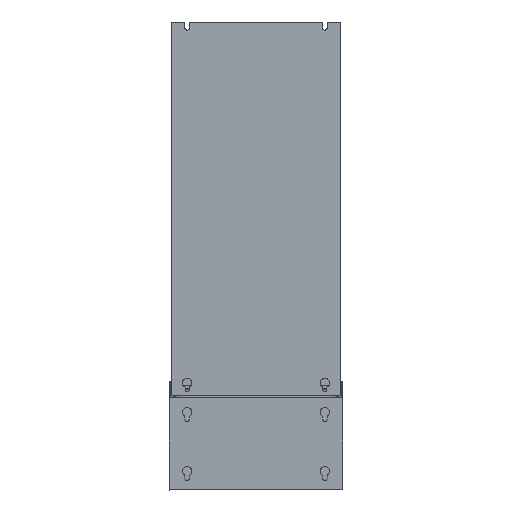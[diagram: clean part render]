
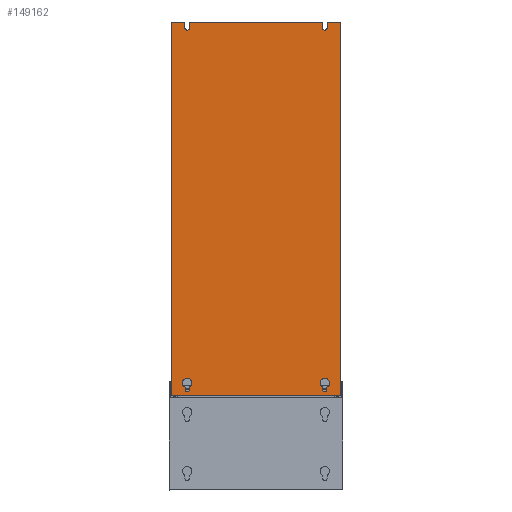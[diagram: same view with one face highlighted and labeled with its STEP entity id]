
A CAD part, front view. The second image highlights one B-rep face of the part: STEP entity #149162.
In plain terms, the highlighted planar face has unit normal (0, -1, 0).
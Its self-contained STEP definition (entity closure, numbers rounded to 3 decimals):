
#136124=CARTESIAN_POINT('',(40.,0.,935.));
#136125=DIRECTION('',(0.,-1.,0.));
#136126=DIRECTION('',(-1.,0.,0.));
#136127=AXIS2_PLACEMENT_3D('',#136124,#136125,#136126);
#136129=CARTESIAN_POINT('',(390.,0.,935.));
#136130=DIRECTION('',(0.,-1.,0.));
#136131=DIRECTION('',(-1.,0.,0.));
#136132=AXIS2_PLACEMENT_3D('',#136129,#136130,#136131);
#136134=CARTESIAN_POINT('',(390.,0.,15.));
#136135=DIRECTION('',(0.,-1.,0.));
#136136=DIRECTION('',(-1.,0.,0.));
#136137=AXIS2_PLACEMENT_3D('',#136134,#136135,#136136);
#136139=CARTESIAN_POINT('',(390.,0.,32.));
#136140=DIRECTION('',(0.,-1.,0.));
#136141=DIRECTION('',(0.458,0.,-0.889));
#136142=AXIS2_PLACEMENT_3D('',#136139,#136140,#136141);
#136144=CARTESIAN_POINT('',(390.,0.,32.));
#136145=DIRECTION('',(0.,-1.,0.));
#136146=DIRECTION('',(1.,0.,0.));
#136147=AXIS2_PLACEMENT_3D('',#136144,#136145,#136146);
#136149=CARTESIAN_POINT('',(390.,0.,32.));
#136150=DIRECTION('',(0.,-1.,0.));
#136151=DIRECTION('',(-0.458,0.,0.889));
#136152=AXIS2_PLACEMENT_3D('',#136149,#136150,#136151);
#136154=CARTESIAN_POINT('',(390.,0.,32.));
#136155=DIRECTION('',(0.,-1.,0.));
#136156=DIRECTION('',(-1.,0.,0.));
#136157=AXIS2_PLACEMENT_3D('',#136154,#136155,#136156);
#136159=CARTESIAN_POINT('',(40.,0.,32.));
#136160=DIRECTION('',(0.,-1.,0.));
#136161=DIRECTION('',(0.458,0.,-0.889));
#136162=AXIS2_PLACEMENT_3D('',#136159,#136160,#136161);
#136164=CARTESIAN_POINT('',(40.,0.,32.));
#136165=DIRECTION('',(0.,-1.,0.));
#136166=DIRECTION('',(1.,0.,0.));
#136167=AXIS2_PLACEMENT_3D('',#136164,#136165,#136166);
#136169=CARTESIAN_POINT('',(40.,0.,32.));
#136170=DIRECTION('',(0.,-1.,0.));
#136171=DIRECTION('',(-0.458,0.,0.889));
#136172=AXIS2_PLACEMENT_3D('',#136169,#136170,#136171);
#136174=CARTESIAN_POINT('',(40.,0.,32.));
#136175=DIRECTION('',(0.,-1.,0.));
#136176=DIRECTION('',(-1.,0.,0.));
#136177=AXIS2_PLACEMENT_3D('',#136174,#136175,#136176);
#136179=CARTESIAN_POINT('',(40.,0.,15.));
#136180=DIRECTION('',(0.,-1.,0.));
#136181=DIRECTION('',(-1.,0.,0.));
#136182=AXIS2_PLACEMENT_3D('',#136179,#136180,#136181);
#136184=DIRECTION('',(0.,0.,1.));
#136185=VECTOR('',#136184,950.);
#136186=CARTESIAN_POINT('',(430.,0.,0.));
#136187=LINE('',#136186,#136185);
#136220=DIRECTION('',(1.,0.,0.));
#136221=VECTOR('',#136220,430.);
#136222=CARTESIAN_POINT('',(0.,0.,0.));
#136223=LINE('',#136222,#136221);
#142311=DIRECTION('',(0.,0.,-1.));
#142312=VECTOR('',#142311,950.);
#142313=CARTESIAN_POINT('',(0.,0.,950.));
#142314=LINE('',#142313,#142312);
#142483=DIRECTION('',(0.,0.,1.));
#142484=VECTOR('',#142483,6.335);
#142485=CARTESIAN_POINT('',(384.5,0.,15.));
#142486=LINE('',#142485,#142484);
#142499=DIRECTION('',(0.,0.,-1.));
#142500=VECTOR('',#142499,6.335);
#142501=CARTESIAN_POINT('',(395.5,0.,21.335));
#142502=LINE('',#142501,#142500);
#142507=DIRECTION('',(0.,0.,-1.));
#142508=VECTOR('',#142507,6.335);
#142509=CARTESIAN_POINT('',(45.5,0.,21.335));
#142510=LINE('',#142509,#142508);
#142523=DIRECTION('',(0.,0.,1.));
#142524=VECTOR('',#142523,6.335);
#142525=CARTESIAN_POINT('',(34.5,0.,15.));
#142526=LINE('',#142525,#142524);
#142581=DIRECTION('',(-1.,0.,0.));
#142582=VECTOR('',#142581,34.25);
#142583=CARTESIAN_POINT('',(34.25,0.,950.));
#142584=LINE('',#142583,#142582);
#142601=DIRECTION('',(0.,0.,1.));
#142602=VECTOR('',#142601,15.);
#142603=CARTESIAN_POINT('',(34.25,0.,935.));
#142604=LINE('',#142603,#142602);
#142621=DIRECTION('',(0.,0.,-1.));
#142622=VECTOR('',#142621,15.);
#142623=CARTESIAN_POINT('',(45.75,0.,950.));
#142624=LINE('',#142623,#142622);
#142629=DIRECTION('',(-1.,0.,0.));
#142630=VECTOR('',#142629,338.5);
#142631=CARTESIAN_POINT('',(384.25,0.,950.));
#142632=LINE('',#142631,#142630);
#142641=DIRECTION('',(0.,0.,1.));
#142642=VECTOR('',#142641,15.);
#142643=CARTESIAN_POINT('',(384.25,0.,935.));
#142644=LINE('',#142643,#142642);
#142673=DIRECTION('',(-1.,0.,0.));
#142674=VECTOR('',#142673,34.25);
#142675=CARTESIAN_POINT('',(430.,0.,950.));
#142676=LINE('',#142675,#142674);
#142677=DIRECTION('',(0.,0.,-1.));
#142678=VECTOR('',#142677,15.);
#142679=CARTESIAN_POINT('',(395.75,0.,950.));
#142680=LINE('',#142679,#142678);
#145417=CARTESIAN_POINT('',(384.25,0.,935.));
#145418=CARTESIAN_POINT('',(395.75,0.,935.));
#145419=VERTEX_POINT('',#145417);
#145420=VERTEX_POINT('',#145418);
#145421=CARTESIAN_POINT('',(430.,0.,0.));
#145422=CARTESIAN_POINT('',(430.,0.,950.));
#145423=VERTEX_POINT('',#145421);
#145424=VERTEX_POINT('',#145422);
#145425=CARTESIAN_POINT('',(0.,0.,0.));
#145426=VERTEX_POINT('',#145425);
#145427=CARTESIAN_POINT('',(0.,0.,950.));
#145428=VERTEX_POINT('',#145427);
#145429=CARTESIAN_POINT('',(34.25,0.,950.));
#145430=VERTEX_POINT('',#145429);
#145431=CARTESIAN_POINT('',(34.25,0.,935.));
#145432=VERTEX_POINT('',#145431);
#145433=CARTESIAN_POINT('',(45.75,0.,935.));
#145434=VERTEX_POINT('',#145433);
#145435=CARTESIAN_POINT('',(45.75,0.,950.));
#145436=VERTEX_POINT('',#145435);
#145437=CARTESIAN_POINT('',(384.25,0.,950.));
#145438=VERTEX_POINT('',#145437);
#145439=CARTESIAN_POINT('',(395.75,0.,950.));
#145440=VERTEX_POINT('',#145439);
#145441=CARTESIAN_POINT('',(384.5,0.,15.));
#145442=CARTESIAN_POINT('',(395.5,0.,15.));
#145443=VERTEX_POINT('',#145441);
#145444=VERTEX_POINT('',#145442);
#145445=CARTESIAN_POINT('',(395.5,0.,21.335));
#145446=VERTEX_POINT('',#145445);
#145447=CARTESIAN_POINT('',(402.,0.,32.));
#145448=VERTEX_POINT('',#145447);
#145449=CARTESIAN_POINT('',(384.5,0.,42.665));
#145450=VERTEX_POINT('',#145449);
#145451=CARTESIAN_POINT('',(378.,0.,32.));
#145452=VERTEX_POINT('',#145451);
#145453=CARTESIAN_POINT('',(384.5,0.,21.335));
#145454=VERTEX_POINT('',#145453);
#145455=CARTESIAN_POINT('',(45.5,0.,21.335));
#145456=CARTESIAN_POINT('',(45.5,0.,15.));
#145457=VERTEX_POINT('',#145455);
#145458=VERTEX_POINT('',#145456);
#145459=CARTESIAN_POINT('',(52.,0.,32.));
#145460=VERTEX_POINT('',#145459);
#145461=CARTESIAN_POINT('',(34.5,0.,42.665));
#145462=VERTEX_POINT('',#145461);
#145463=CARTESIAN_POINT('',(28.,0.,32.));
#145464=VERTEX_POINT('',#145463);
#145465=CARTESIAN_POINT('',(34.5,0.,21.335));
#145466=VERTEX_POINT('',#145465);
#145467=CARTESIAN_POINT('',(34.5,0.,15.));
#145468=VERTEX_POINT('',#145467);
#149100=CARTESIAN_POINT('',(215.,0.,475.));
#149101=DIRECTION('',(0.,1.,0.));
#149102=DIRECTION('',(-1.,0.,0.));
#149103=AXIS2_PLACEMENT_3D('',#149100,#149101,#149102);
#149104=PLANE('',#149103);
#149106=ORIENTED_EDGE('',*,*,#149105,.F.);
#149108=ORIENTED_EDGE('',*,*,#149107,.F.);
#149110=ORIENTED_EDGE('',*,*,#149109,.F.);
#149112=ORIENTED_EDGE('',*,*,#149111,.F.);
#149114=ORIENTED_EDGE('',*,*,#149113,.F.);
#149116=ORIENTED_EDGE('',*,*,#149115,.T.);
#149118=ORIENTED_EDGE('',*,*,#149117,.F.);
#149120=ORIENTED_EDGE('',*,*,#149119,.F.);
#149122=ORIENTED_EDGE('',*,*,#149121,.F.);
#149123=ORIENTED_EDGE('',*,*,#149090,.T.);
#149125=ORIENTED_EDGE('',*,*,#149124,.F.);
#149127=ORIENTED_EDGE('',*,*,#149126,.F.);
#149128=EDGE_LOOP('',(#149106,#149108,#149110,#149112,#149114,#149116,#149118,
#149120,#149122,#149123,#149125,#149127));
#149129=FACE_OUTER_BOUND('',#149128,.F.);
#149131=ORIENTED_EDGE('',*,*,#149130,.T.);
#149133=ORIENTED_EDGE('',*,*,#149132,.F.);
#149135=ORIENTED_EDGE('',*,*,#149134,.T.);
#149137=ORIENTED_EDGE('',*,*,#149136,.T.);
#149139=ORIENTED_EDGE('',*,*,#149138,.T.);
#149141=ORIENTED_EDGE('',*,*,#149140,.T.);
#149143=ORIENTED_EDGE('',*,*,#149142,.F.);
#149144=EDGE_LOOP('',(#149131,#149133,#149135,#149137,#149139,#149141,#149143));
#149145=FACE_BOUND('',#149144,.F.);
#149147=ORIENTED_EDGE('',*,*,#149146,.F.);
#149149=ORIENTED_EDGE('',*,*,#149148,.T.);
#149151=ORIENTED_EDGE('',*,*,#149150,.T.);
#149153=ORIENTED_EDGE('',*,*,#149152,.T.);
#149155=ORIENTED_EDGE('',*,*,#149154,.T.);
#149157=ORIENTED_EDGE('',*,*,#149156,.F.);
#149159=ORIENTED_EDGE('',*,*,#149158,.T.);
#149160=EDGE_LOOP('',(#149147,#149149,#149151,#149153,#149155,#149157,#149159));
#149161=FACE_BOUND('',#149160,.F.);
#136128=CIRCLE('',#136127,5.75);
#136133=CIRCLE('',#136132,5.75);
#136138=CIRCLE('',#136137,5.5);
#136143=CIRCLE('',#136142,12.);
#136148=CIRCLE('',#136147,12.);
#136153=CIRCLE('',#136152,12.);
#136158=CIRCLE('',#136157,12.);
#136163=CIRCLE('',#136162,12.);
#136168=CIRCLE('',#136167,12.);
#136173=CIRCLE('',#136172,12.);
#136178=CIRCLE('',#136177,12.);
#136183=CIRCLE('',#136182,5.5);
#149090=EDGE_CURVE('',#145419,#145420,#136133,.T.);
#149105=EDGE_CURVE('',#145423,#145424,#136187,.T.);
#149107=EDGE_CURVE('',#145426,#145423,#136223,.T.);
#149109=EDGE_CURVE('',#145428,#145426,#142314,.T.);
#149111=EDGE_CURVE('',#145430,#145428,#142584,.T.);
#149113=EDGE_CURVE('',#145432,#145430,#142604,.T.);
#149115=EDGE_CURVE('',#145432,#145434,#136128,.T.);
#149117=EDGE_CURVE('',#145436,#145434,#142624,.T.);
#149119=EDGE_CURVE('',#145438,#145436,#142632,.T.);
#149121=EDGE_CURVE('',#145419,#145438,#142644,.T.);
#149124=EDGE_CURVE('',#145440,#145420,#142680,.T.);
#149126=EDGE_CURVE('',#145424,#145440,#142676,.T.);
#149130=EDGE_CURVE('',#145443,#145444,#136138,.T.);
#149132=EDGE_CURVE('',#145446,#145444,#142502,.T.);
#149134=EDGE_CURVE('',#145446,#145448,#136143,.T.);
#149136=EDGE_CURVE('',#145448,#145450,#136148,.T.);
#149138=EDGE_CURVE('',#145450,#145452,#136153,.T.);
#149140=EDGE_CURVE('',#145452,#145454,#136158,.T.);
#149142=EDGE_CURVE('',#145443,#145454,#142486,.T.);
#149146=EDGE_CURVE('',#145457,#145458,#142510,.T.);
#149148=EDGE_CURVE('',#145457,#145460,#136163,.T.);
#149150=EDGE_CURVE('',#145460,#145462,#136168,.T.);
#149152=EDGE_CURVE('',#145462,#145464,#136173,.T.);
#149154=EDGE_CURVE('',#145464,#145466,#136178,.T.);
#149156=EDGE_CURVE('',#145468,#145466,#142526,.T.);
#149158=EDGE_CURVE('',#145468,#145458,#136183,.T.);
#149162=ADVANCED_FACE('',(#149129,#149145,#149161),#149104,.F.);
